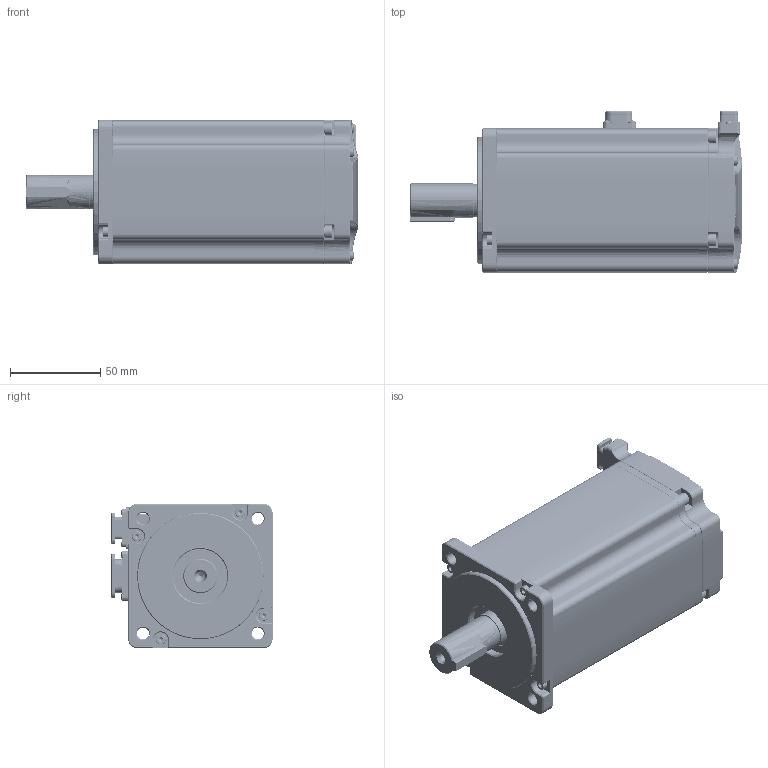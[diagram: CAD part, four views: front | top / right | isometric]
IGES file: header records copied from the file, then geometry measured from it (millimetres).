
Start section: SolidWorks IGES file using analytic representation for surfaces
Global section: file name: Z:\Products\Servo\08.2024\UNITRONICS\B5\UMM-0007CAB-B5.IGS; native system: SolidWorks 2022; preprocessor: SolidWorks 2022; author: OfirZ; date: 240820.130644; units: millimetre
Bounding box: 184 x 89.3 x 80 mm (x, y, z)
Surface area: 157556.7 mm2 (no closed solid volume)
Topology: 0 solids, 0 shells, 3598 faces, 35141 edges, 35057 vertices
Faces by surface type: bspline 2174, revolution 1424
